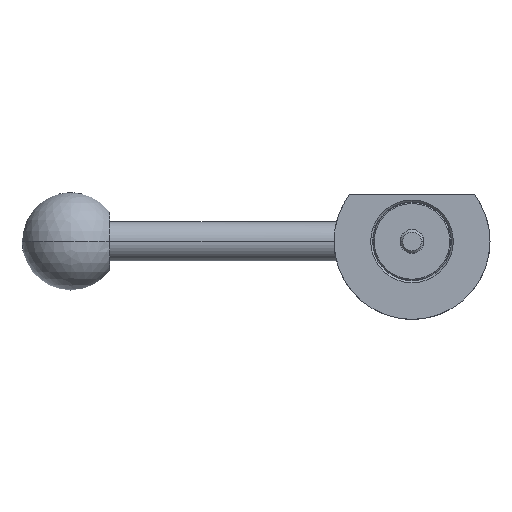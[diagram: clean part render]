
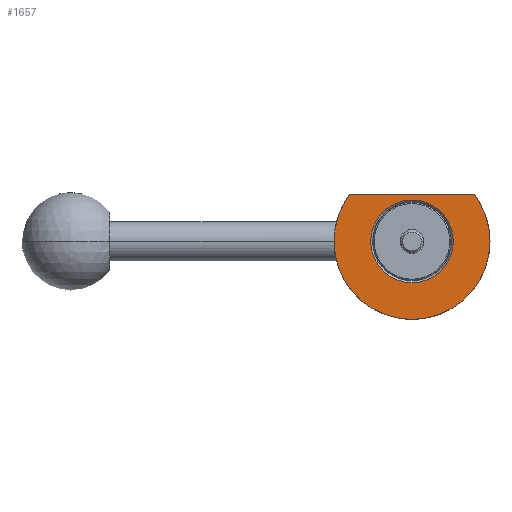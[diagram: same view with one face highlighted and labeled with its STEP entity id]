
A CAD part, front view. The second image highlights one B-rep face of the part: STEP entity #1657.
In plain terms, the highlighted planar face has unit normal (0, -1, 0).
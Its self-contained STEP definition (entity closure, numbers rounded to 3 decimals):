
#54 = AXIS2_PLACEMENT_3D ( 'NONE', #2039, #1881, #1865 ) ;
#72 = DIRECTION ( 'NONE',  ( 0., 1., 0. ) ) ;
#117 = PLANE ( 'NONE',  #227 ) ;
#227 = AXIS2_PLACEMENT_3D ( 'NONE', #262, #1191, #1710 ) ;
#247 = DIRECTION ( 'NONE',  ( 0., 1., 0. ) ) ;
#262 = CARTESIAN_POINT ( 'NONE',  ( -10.6, -10., 0. ) ) ;
#269 = ORIENTED_EDGE ( 'NONE', *, *, #498, .F. ) ;
#271 = CARTESIAN_POINT ( 'NONE',  ( 0., -10., 0. ) ) ;
#298 = VERTEX_POINT ( 'NONE', #502 ) ;
#312 = CARTESIAN_POINT ( 'NONE',  ( -10.6, -10., 11.999 ) ) ;
#328 = AXIS2_PLACEMENT_3D ( 'NONE', #1943, #1308, #1659 ) ;
#342 = EDGE_LOOP ( 'NONE', ( #1925, #979 ) ) ;
#387 = CIRCLE ( 'NONE', #574, 20. ) ;
#399 = VERTEX_POINT ( 'NONE', #1357 ) ;
#435 = EDGE_CURVE ( 'NONE', #298, #1599, #387, .T. ) ;
#440 = ORIENTED_EDGE ( 'NONE', *, *, #718, .F. ) ;
#445 = AXIS2_PLACEMENT_3D ( 'NONE', #1516, #247, #1968 ) ;
#498 = EDGE_CURVE ( 'NONE', #399, #298, #1885, .T. ) ;
#502 = CARTESIAN_POINT ( 'NONE',  ( 20., -10., 0. ) ) ;
#574 = AXIS2_PLACEMENT_3D ( 'NONE', #271, #72, #682 ) ;
#671 = VECTOR ( 'NONE', #2027, 1000. ) ;
#682 = DIRECTION ( 'NONE',  ( -1., 0., 0. ) ) ;
#694 = EDGE_CURVE ( 'NONE', #399, #1580, #2046, .T. ) ;
#701 = DIRECTION ( 'NONE',  ( 0., 1., 0. ) ) ;
#718 = EDGE_CURVE ( 'NONE', #1599, #1580, #932, .T. ) ;
#725 = VERTEX_POINT ( 'NONE', #1721 ) ;
#837 = EDGE_LOOP ( 'NONE', ( #269, #1663, #440, #1049 ) ) ;
#870 = AXIS2_PLACEMENT_3D ( 'NONE', #1293, #701, #1020 ) ;
#883 = FACE_BOUND ( 'NONE', #342, .T. ) ;
#918 = CARTESIAN_POINT ( 'NONE',  ( 10.6, -10., 0. ) ) ;
#932 = CIRCLE ( 'NONE', #54, 20. ) ;
#979 = ORIENTED_EDGE ( 'NONE', *, *, #1434, .T. ) ;
#1020 = DIRECTION ( 'NONE',  ( -1., 0., 0. ) ) ;
#1049 = ORIENTED_EDGE ( 'NONE', *, *, #435, .F. ) ;
#1191 = DIRECTION ( 'NONE',  ( 0., -1., 0. ) ) ;
#1202 = CARTESIAN_POINT ( 'NONE',  ( -20., -10., 0. ) ) ;
#1293 = CARTESIAN_POINT ( 'NONE',  ( 0., -10., 0. ) ) ;
#1308 = DIRECTION ( 'NONE',  ( 0., 1., 0. ) ) ;
#1341 = VERTEX_POINT ( 'NONE', #918 ) ;
#1357 = CARTESIAN_POINT ( 'NONE',  ( 16.001, -10., 11.999 ) ) ;
#1434 = EDGE_CURVE ( 'NONE', #725, #1341, #1522, .T. ) ;
#1457 = EDGE_CURVE ( 'NONE', #1341, #725, #2059, .T. ) ;
#1516 = CARTESIAN_POINT ( 'NONE',  ( 0., -10., 0. ) ) ;
#1522 = CIRCLE ( 'NONE', #870, 10.6 ) ;
#1570 = CARTESIAN_POINT ( 'NONE',  ( -16.001, -10., 11.999 ) ) ;
#1580 = VERTEX_POINT ( 'NONE', #1570 ) ;
#1599 = VERTEX_POINT ( 'NONE', #1202 ) ;
#1657 = ADVANCED_FACE ( 'NONE', ( #883, #1676 ), #117, .T. ) ;
#1659 = DIRECTION ( 'NONE',  ( -1., 0., 0. ) ) ;
#1663 = ORIENTED_EDGE ( 'NONE', *, *, #694, .T. ) ;
#1676 = FACE_OUTER_BOUND ( 'NONE', #837, .T. ) ;
#1710 = DIRECTION ( 'NONE',  ( 1., 0., 0. ) ) ;
#1721 = CARTESIAN_POINT ( 'NONE',  ( -10.6, -10., 0. ) ) ;
#1865 = DIRECTION ( 'NONE',  ( -1., 0., 0. ) ) ;
#1881 = DIRECTION ( 'NONE',  ( 0., 1., 0. ) ) ;
#1885 = CIRCLE ( 'NONE', #445, 20. ) ;
#1925 = ORIENTED_EDGE ( 'NONE', *, *, #1457, .T. ) ;
#1943 = CARTESIAN_POINT ( 'NONE',  ( 0., -10., 0. ) ) ;
#1968 = DIRECTION ( 'NONE',  ( -1., 0., 0. ) ) ;
#2027 = DIRECTION ( 'NONE',  ( -1., 0., 0. ) ) ;
#2039 = CARTESIAN_POINT ( 'NONE',  ( 0., -10., 0. ) ) ;
#2046 = LINE ( 'NONE', #312, #671 ) ;
#2059 = CIRCLE ( 'NONE', #328, 10.6 ) ;
